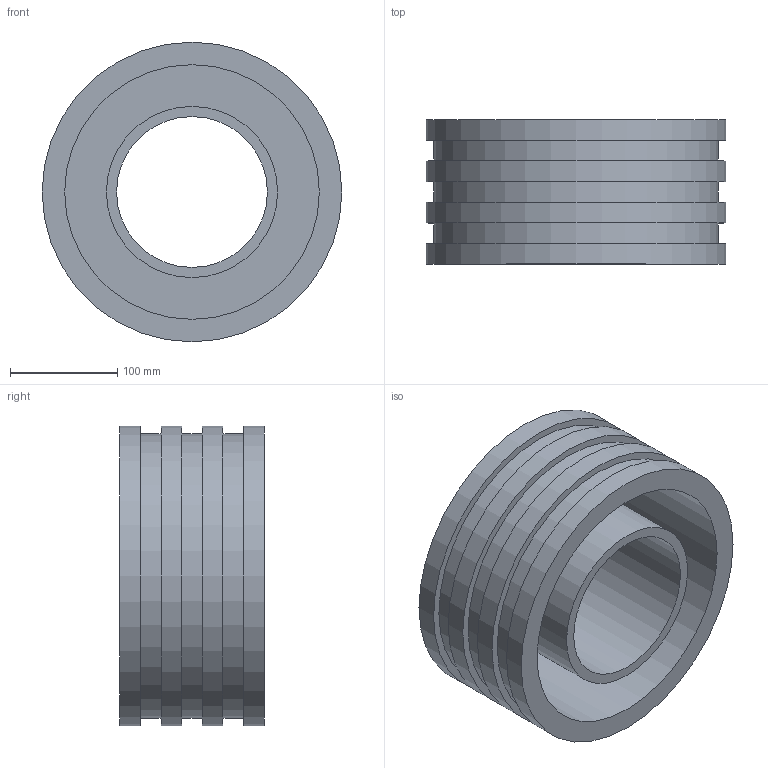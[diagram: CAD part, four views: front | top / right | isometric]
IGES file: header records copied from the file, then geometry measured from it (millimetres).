
Global section: file name: 477207160.ipt; native system: Autodesk Inventor 2015; preprocessor: unknown; author: Кирилл,,11,0; organization: 20170830.190241; date: 20171106.093324; units: millimetre
Bounding box: 280 x 135 x 280 mm (x, y, z)
Volume: 2800901 mm3; surface area: 460691.4 mm2
Topology: 1 solids, 1 shells, 20 faces, 34 edges, 24 vertices
Faces by surface type: plane 10, cylinder 8, revolution 2
Full cylindrical faces by diameter (mm): 160 x1, 266 x3, 280 x4
